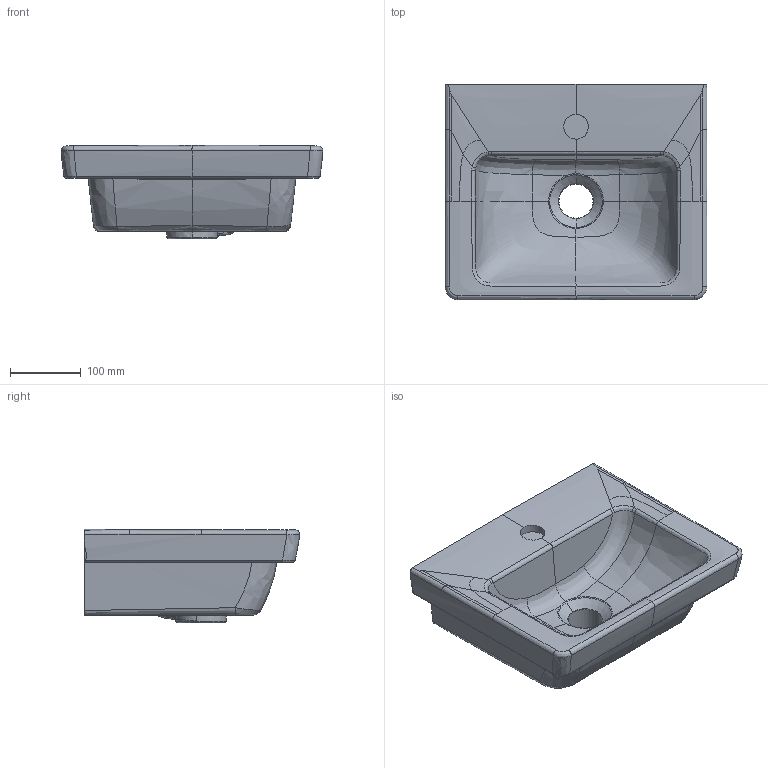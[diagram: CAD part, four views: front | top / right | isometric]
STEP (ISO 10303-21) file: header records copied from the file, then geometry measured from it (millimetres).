
FILE_DESCRIPTION(/* description */ (''),/* implementation_level */ '2;1');
FILE_NAME(/* name */ '731737_Subway_2.0_HWB.stp',/* time_stamp */ '2019-02-21T08:08:13+01:00',/* author */ (''),/* organization */ (''),/* preprocessor_version */ 'ST-DEVELOPER v16',/* originating_system */ 'SIEMENS PLM Software NX 10.0',/* authorisation */ '');
FILE_SCHEMA (('AUTOMOTIVE_DESIGN { 1 0 10303 214 3 1 1 1 }'));
Length unit declared in the file: millimetre
Products named in the file (1): math1B1037519huw
Bounding box: 369.61 x 304.4 x 132.52 mm (x, y, z)
Surface area: 415346.2 mm2 (no closed solid volume)
Topology: 0 solids, 1 shells, 293 faces, 712 edges, 402 vertices
Faces by surface type: bspline 168, cylinder 57, plane 39, sphere 12, torus 8, cone 5, extrusion 4
Full cylindrical faces by diameter (mm): 35 x1, 48.261 x1
Entity records: 19330 total; most frequent: CARTESIAN_POINT 13919, ORIENTED_EDGE 1388, DIRECTION 730, EDGE_CURVE 694, VERTEX_POINT 405, B_SPLINE_CURVE_WITH_KNOTS 376, AXIS2_PLACEMENT_3D 303, EDGE_LOOP 297
